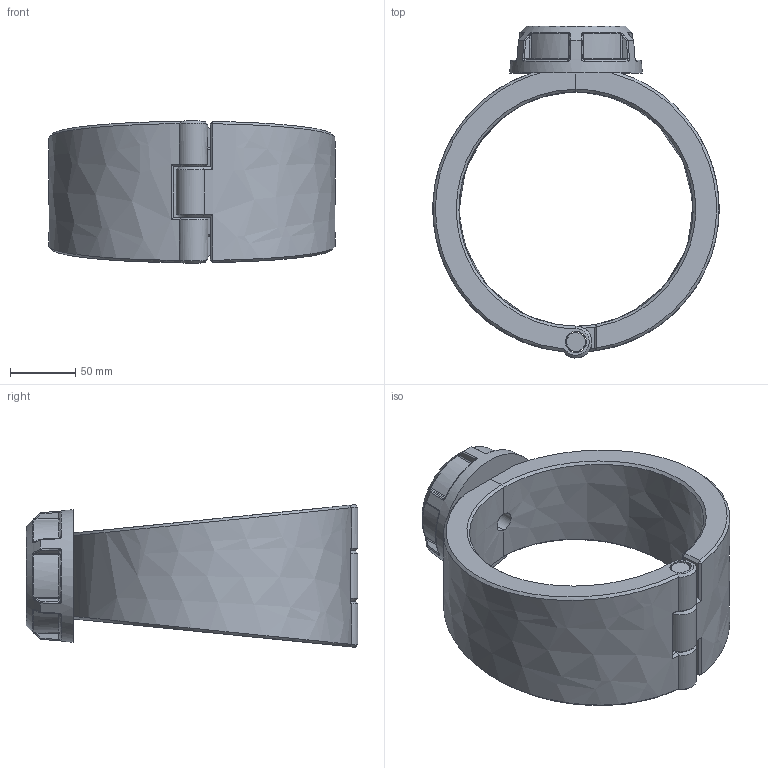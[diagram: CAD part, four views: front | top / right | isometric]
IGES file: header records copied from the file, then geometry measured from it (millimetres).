
Global section: file name: 163000180010; native system: Autodesk Inventor 2019; preprocessor: unknown; author: comp2; date: 20220203.115238; units: millimetre
Bounding box: 220 x 255 x 109.6 mm (x, y, z)
Volume: 1274472.8 mm3; surface area: 176265.3 mm2
Topology: 4 solids, 4 shells, 203 faces, 486 edges, 293 vertices
Faces by surface type: bspline 203
